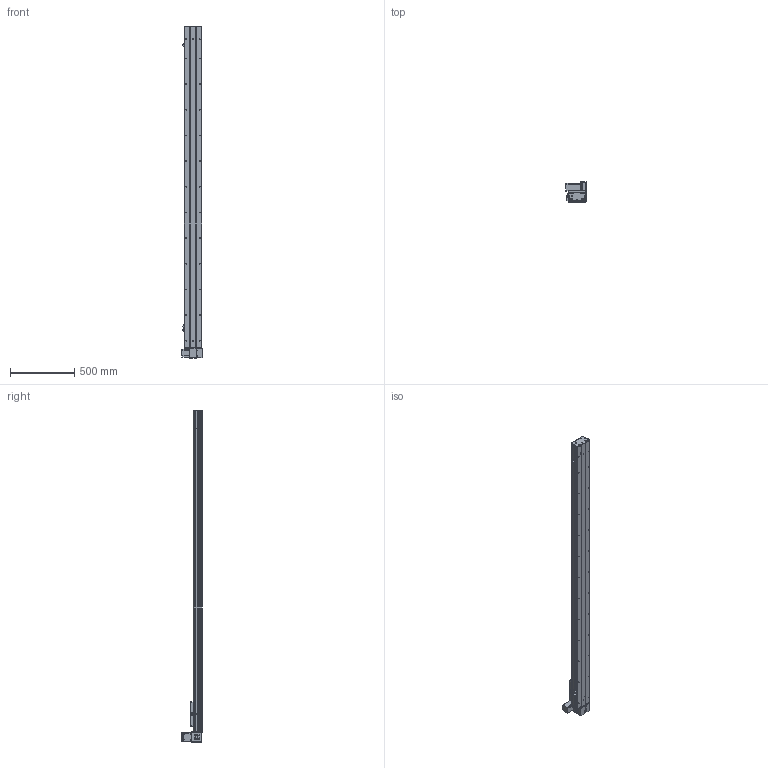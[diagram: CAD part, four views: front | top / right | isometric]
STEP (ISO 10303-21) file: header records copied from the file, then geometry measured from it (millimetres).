
FILE_DESCRIPTION (( 'STEP AP203' ), '1' );
FILE_NAME ('Y135CB-D90-S2200-UL-P400W.STEP', '2020-02-18T07:55:56', ( '微软用户' ), ( '微软中国' ), 'SwSTEP 2.0', 'SolidWorks 2017', '' );
FILE_SCHEMA (( 'CONFIG_CONTROL_DESIGN' ));
Length unit declared in the file: millimetre
Products named in the file (18): 5C--俋欶; 0B-源倛裔啣; C-雄赽釱--; 0B-萇儂楊擘啣; Y10B-耜蚾蟀諉啣----; san松下电机400不带刹车----; 00B-俋欶BM--; 5CB --掛极耜裔啣-; Y10B--々湍喘謫眊--666; C-詩湍揤踡え-陔; Y135CB-耜裔; Y135CB-D90-S2200-UL-P400W; 135CB--詩湍-CE; 135CB---遴掛极.-; Y100-135俋离換覜ん--; 35CB---喘謫眊楊擘啣; Y135C-陔俋离換覜結え-; 0B-埴倛裔啣
Assembly tree (21 placements, depth 2):
  Y135CB-D90-S2200-UL-P400W
    Y135CB-耜裔
    135CB---遴掛极.-
    35CB---喘謫眊楊擘啣
    0B-埴倛裔啣
    0B-源倛裔啣
    0B-萇儂楊擘啣
    san松下电机400不带刹车----
    5CB --掛极耜裔啣-  x2
    C-詩湍揤踡え-陔  x2
    135CB--詩湍-CE
    Y100-135俋离換覜ん--  x3
    Y135C-陔俋离換覜結え-
    5C--俋欶
    C-雄赽釱--
    Y10B-耜蚾蟀諉啣----
    00B-俋欶BM--
    Y10B--々湍喘謫眊--666
Bounding box: 157 x 158.7 x 2588 mm (x, y, z)
Volume: 7502746.2 mm3; surface area: 2967246.7 mm2
Topology: 21 solids, 21 shells, 969 faces, 2635 edges, 1746 vertices
Faces by surface type: cylinder 497, plane 456, cone 16
Entity records: 30561 total; most frequent: DIRECTION 5079, CARTESIAN_POINT 5076, ORIENTED_EDGE 4746, EDGE_CURVE 2373, AXIS2_PLACEMENT_3D 1861, VERTEX_POINT 1574, LINE 1357, VECTOR 1357
